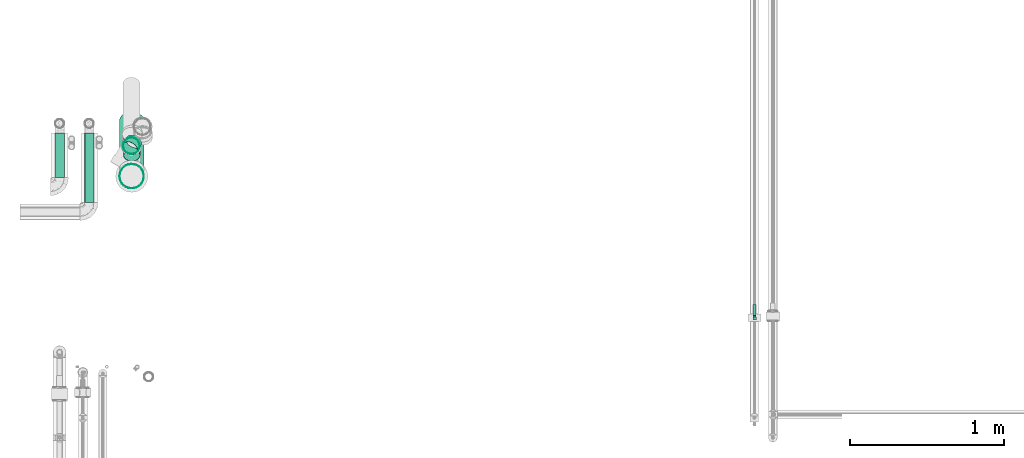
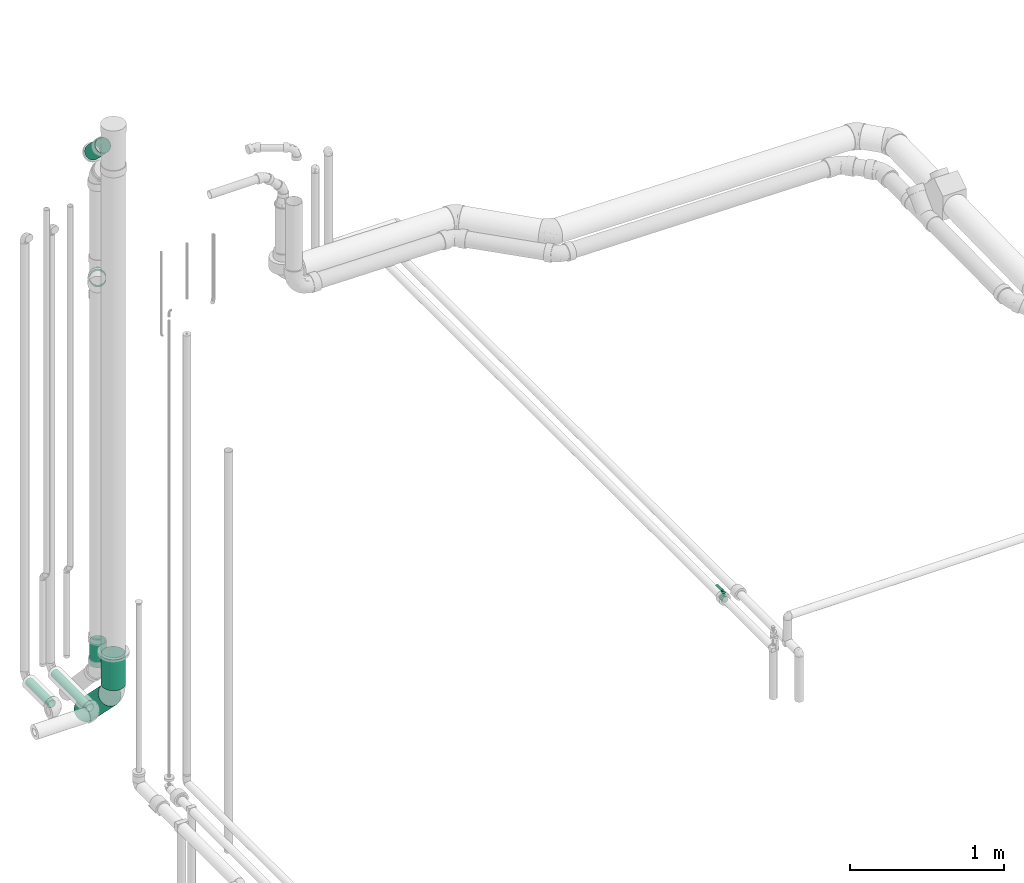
# One storey, part 26 of 78: 7 flow segments, 1 flow controller.
"""IFC2X3 building model written with IfcOpenShell, lengths in millimetres."""

from ifc_helpers import new_model, entity, si_unit, converted_unit, derived_unit, direction, frame, origin_with_axes, origin_2d_with_axis, place, context, subcontext, project, spatial, hollow_circle, extrude, open_shell, surface_model, source, transform, mapped, type_object, element, save


model = new_model("IFC2X3")

# Units and contexts
model_context = context("Model", 3, precision=0.01, world=frame((0.0, 4.29681676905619e-09, 0.0)), true_north=direction((4.01073788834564e-13, 1.0)))
plan_context = context("Plan", 3, precision=0.01, world=frame((0.0, 4.29681676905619e-09, 0.0)), true_north=direction((4.01073788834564e-13, 1.0)))
body_context = subcontext(model_context, "Body", "Model", "MODEL_VIEW")
ifc_project = project(units=[converted_unit("PLANEANGLEUNIT", "DEGREE", entity("IfcPositiveLengthMeasure", 0.0174532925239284), si_unit("PLANEANGLEUNIT", "RADIAN"), dimensions=[0, 0, 0, 0, 0, 0, 0]), si_unit("AREAUNIT", "SQUARE_METRE"), si_unit("LENGTHUNIT", "METRE", prefix="MILLI"), si_unit("MASSUNIT", "GRAM", prefix="KILO"), si_unit("POWERUNIT", "WATT"), si_unit("PRESSUREUNIT", "PASCAL"), si_unit("FORCEUNIT", "NEWTON", prefix="KILO"), si_unit("ELECTRICVOLTAGEUNIT", "VOLT"), si_unit("ELECTRICCURRENTUNIT", "AMPERE"), si_unit("THERMODYNAMICTEMPERATUREUNIT", "DEGREE_CELSIUS"), si_unit("TIMEUNIT", "SECOND"), si_unit("VOLUMEUNIT", "CUBIC_METRE"), derived_unit("LINEARVELOCITYUNIT", [(si_unit("LENGTHUNIT", "METRE"), 1), (si_unit("TIMEUNIT", "SECOND"), -1)]), derived_unit("VOLUMETRICFLOWRATEUNIT", [(si_unit("VOLUMEUNIT", "CUBIC_METRE"), 1), (si_unit("TIMEUNIT", "SECOND"), -1)]), derived_unit("THERMALTRANSMITTANCEUNIT", [(si_unit("POWERUNIT", "WATT"), 1), (si_unit("THERMODYNAMICTEMPERATUREUNIT", "KELVIN"), -1), (si_unit("AREAUNIT", "SQUARE_METRE"), -1)]), derived_unit("SOUNDPRESSUREUNIT", [(si_unit("PRESSUREUNIT", "PASCAL"), 1)])], contexts=[model_context, plan_context])

# Site, building, storey
site_placement = place(None, frame((0.0, -4.29681676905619e-09, 0.0), z_axis=(0.0, 0.0, 1.0), x_axis=(1.0, 0.0, 0.0)))
site = spatial("IfcSite", under=ifc_project, at=site_placement, Name="ENGM", CompositionType="ELEMENT")
building_placement = place(site_placement, frame((0.0, 4.29681676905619e-09, 0.0), z_axis=(0.0, 0.0, 1.0), x_axis=(1.0, 0.0, 0.0)))
building = spatial("IfcBuilding", under=site, at=building_placement, Name="TH", CompositionType="ELEMENT")
storey_placement = place(building_placement, frame((0.0, 0.0, 205200.0), z_axis=(0.0, 0.0, 1.0), x_axis=(1.0, 0.0, 0.0)))
storey = spatial("IfcBuildingStorey", under=building, at=storey_placement, Name="Nivå D + 1,2 m", CompositionType="ELEMENT", Elevation=205200.0)

# Flow controller
valve_type = type_object("IfcValveType", Name="AT3600-15", PredefinedType="NOTDEFINED")
shared_shape_1 = source(origin_with_axes(), body_context, "Body", "SurfaceModel", [
    surface_model("IfcShellBasedSurfaceModel", [(-14.8115, 10.0, 46.0), (-14.8115, -12.0, 46.0), (7.1885, -12.0, 46.0), (7.1885, 10.0, 46.0), (7.1885, 10.0, 44.0), (7.1885, -12.0, 44.0), (-14.8115, -12.0, 44.0), (-14.8115, 10.0, 44.0), (-13.0, -17.91792, -4.80109), (11.85, -17.91792, -4.80109), (-13.0, -18.55, 0.0), (-13.0, -16.06477, -9.275), (11.85, -16.06477, -9.275), (11.85, -9.275, -16.06477), (-13.0, -13.11683, -13.11683), (-13.0, -9.275, -16.06477), (11.85, -13.11683, -13.11683), (11.85, -4.80109, -17.91792), (-13.0, -4.80109, -17.91792), (11.85, -18.55, 0.0), (11.85, 0.0, -18.55), (-13.0, 0.0, -18.55), (11.85, 9.275, -16.06477), (-13.0, 9.275, -16.06477), (-13.0, 13.11683, -13.11683), (11.85, 16.06477, -9.275), (-13.0, 16.06477, -9.275), (-13.0, 17.91792, -4.80109), (11.85, 13.11683, -13.11683), (11.85, 17.91792, -4.80109), (-13.0, 18.55, 0.0), (11.85, 4.80109, -17.91792), (-13.0, 4.80109, -17.91792), (11.85, 18.55, 0.0), (-13.0, 17.91792, 4.80109), (11.85, 17.91792, 4.80109), (-13.0, 16.06477, 9.275), (11.85, 16.06477, 9.275), (11.85, 9.275, 16.06477), (-13.0, 13.11683, 13.11683), (-13.0, 9.275, 16.06477), (11.85, 13.11683, 13.11683), (11.85, 4.80109, 17.91792), (-13.0, 4.80109, 17.91792), (11.85, 0.0, 18.55), (-13.0, 0.0, 18.55), (11.85, -4.80109, 17.91792), (-13.0, -4.80109, 17.91792), (-13.0, -9.275, 16.06477), (-13.0, -13.11683, 13.11683), (11.85, -9.275, 16.06477), (11.85, -16.06477, 9.275), (-13.0, -16.06477, 9.275), (-13.0, -17.91792, 4.80109), (11.85, -13.11683, 13.11683), (11.85, -17.91792, 4.80109), (11.85, 5.76131, 21.50151), (11.85, -11.13, 19.27773), (11.85, 0.0, 22.26), (11.85, 19.27773, 11.13), (11.85, 11.13, 19.27773), (11.85, 15.7402, 15.7402), (11.85, -21.50151, 5.76131), (11.85, 22.26, 0.0), (11.85, -19.27773, 11.13), (11.85, -15.7402, 15.7402), (11.85, -5.76131, 21.50151), (11.85, -22.26, 0.0), (11.85, 21.50151, 5.76131), (11.85, 21.50151, -5.76131), (11.85, -21.50151, -5.76131), (11.85, 15.7402, -15.7402), (11.85, 19.27773, -11.13), (11.85, 11.13, -19.27773), (11.85, 5.76131, -21.50151), (11.85, 0.0, -22.26), (11.85, -15.7402, -15.7402), (11.85, -19.27773, -11.13), (11.85, -11.13, -19.27773), (11.85, -5.76131, -21.50151), (24.5, 15.7402, -15.7402), (24.5, 0.0, -22.26), (24.5, 5.76131, -21.50151), (24.5, 11.13, -19.27773), (24.5, 19.27773, -11.13), (24.5, 21.50151, -5.76131), (24.5, -11.13, -19.27773), (24.5, -21.50151, -5.76131), (24.5, -19.27773, -11.13), (24.5, -15.7402, -15.7402), (24.5, -5.76131, -21.50151), (24.5, -22.26, 0.0), (24.5, -21.50151, 5.76131), (24.5, 22.26, 0.0), (24.5, 21.50151, 5.76131), (24.5, 19.27773, 11.13), (24.5, -11.13, 19.27773), (24.5, 11.13, 19.27773), (24.5, 5.76131, 21.50151), (24.5, 15.7402, 15.7402), (24.5, -19.27773, 11.13), (24.5, -15.7402, 15.7402), (24.5, 0.0, 22.26), (24.5, -5.76131, 21.50151), (-13.0, 11.13, -19.27773), (-13.0, 11.13, 19.27773), (-13.0, 5.76131, -21.50151), (-13.0, 15.7402, -15.7402), (-13.0, 15.7402, 15.7402), (-13.0, 19.27773, 11.13), (-13.0, 19.27773, -11.13), (-13.0, 21.50151, -5.76131), (-13.0, 0.0, -22.26), (-13.0, 0.0, 22.26), (-13.0, -11.13, -19.27773), (-13.0, -5.76131, 21.50151), (-13.0, -15.7402, -15.7402), (-13.0, -5.76131, -21.50151), (-13.0, -19.27773, 11.13), (-13.0, -19.27773, -11.13), (-13.0, -21.50151, -5.76131), (-13.0, 22.26, 0.0), (-13.0, 21.50151, 5.76131), (-13.0, 5.76131, 21.50151), (-13.0, -21.50151, 5.76131), (-13.0, -22.26, 0.0), (-13.0, -11.13, 19.27773), (-13.0, -15.7402, 15.7402), (-24.5, 5.76131, -21.50151), (-24.5, 5.76131, 21.50151), (-24.5, 11.13, 19.27773), (-24.5, -5.76131, -21.50151), (-24.5, 0.0, 22.26), (-24.5, 19.27773, -11.13), (-24.5, 19.27773, 11.13), (-24.5, 21.50151, 5.76131), (-24.5, 15.7402, 15.7402), (-24.5, 15.7402, -15.7402), (-24.5, -11.13, 19.27773), (-24.5, -11.13, -19.27773), (-24.5, -15.7402, 15.7402), (-24.5, -5.76131, 21.50151), (-24.5, -19.27773, -11.13), (-24.5, -19.27773, 11.13), (-24.5, -21.50151, 5.76131), (-24.5, 21.50151, -5.76131), (-24.5, 22.26, 0.0), (-24.5, 11.13, -19.27773), (-24.5, 0.0, -22.26), (-24.5, -21.50151, -5.76131), (-24.5, -22.26, 0.0), (-24.5, -15.7402, -15.7402), (-7.16025, -7.53226, 44.0), (-2.8115, -8.6975, 44.0), (-0.56042, -8.40114, 44.0), (1.53725, -7.53226, 44.0), (4.72075, -4.34875, 44.0), (3.33856, -6.15006, 44.0), (-11.509, 0.0, 44.0), (5.58964, -2.25108, 44.0), (-10.34376, -4.34875, 44.0), (-8.96156, -6.15006, 44.0), (-5.06258, -8.40114, 44.0), (-11.21264, -2.25108, 44.0), (5.886, 0.0, 44.0), (-0.56042, 8.40114, 44.0), (5.58964, 2.25108, 44.0), (3.33856, 6.15006, 44.0), (4.72075, 4.34875, 44.0), (1.53725, 7.53226, 44.0), (-2.8115, 8.6975, 44.0), (-11.21264, 2.25108, 44.0), (-8.96156, 6.15006, 44.0), (-10.34376, 4.34875, 44.0), (-7.16025, 7.53226, 44.0), (-5.06258, 8.40114, 44.0), (1.53725, 7.53226, 0.0), (-2.8115, 8.6975, 0.0), (-0.56042, 8.40114, 0.0), (5.886, 0.0, 0.0), (3.33856, 6.15006, 0.0), (5.58964, 2.25108, 0.0), (4.72075, 4.34875, 0.0), (-11.21264, 2.25108, 0.0), (-5.06258, 8.40114, 0.0), (-7.16025, 7.53226, 0.0), (-8.96156, 6.15006, 0.0), (-10.34376, 4.34875, 0.0), (1.53725, -7.53226, 0.0), (4.72075, -4.34875, 0.0), (3.33856, -6.15006, 0.0), (-11.21264, -2.25108, 0.0), (-0.56042, -8.40114, 0.0), (-2.8115, -8.6975, 0.0), (-7.16025, -7.53226, 0.0), (-10.34376, -4.34875, 0.0), (-11.509, 0.0, 0.0), (-8.96156, -6.15006, 0.0), (-5.06258, -8.40114, 0.0), (5.58964, -2.25108, 0.0), (14.1885, -10.0, 51.0), (14.1885, -10.0, 53.0), (7.1885, -10.0, 46.0), (7.1885, -10.0, 44.0), (14.1885, 10.0, 51.0), (14.1885, 10.0, 53.0), (87.1885, -11.0, 53.0), (14.1885, -11.0, 53.0), (14.1885, -11.0, 51.0), (87.1885, -11.0, 51.0), (87.1885, 10.0, 51.0), (87.1885, 10.0, 53.0)], [open_shell([[[0, 1, 2]], [[2, 3, 0]], [[4, 5, 6]], [[6, 7, 4]], [[3, 2, 5]], [[5, 4, 3]], [[1, 0, 7]], [[7, 6, 1]], [[8, 9, 10]], [[11, 12, 8]], [[13, 14, 15]], [[11, 14, 16]], [[17, 15, 18]], [[8, 12, 9]], [[9, 19, 10]], [[17, 13, 15]], [[16, 14, 13]], [[16, 12, 11]], [[20, 17, 18]], [[18, 21, 20]], [[22, 23, 24]], [[25, 26, 27]], [[24, 26, 28]], [[29, 27, 30]], [[31, 32, 22]], [[31, 20, 32]], [[32, 23, 22]], [[24, 28, 22]], [[26, 25, 28]], [[29, 25, 27]], [[30, 33, 29]], [[32, 20, 21]], [[34, 35, 30]], [[36, 37, 34]], [[38, 39, 40]], [[36, 39, 41]], [[42, 40, 43]], [[34, 37, 35]], [[35, 33, 30]], [[38, 40, 42]], [[41, 39, 38]], [[41, 37, 36]], [[43, 44, 42]], [[43, 45, 44]], [[46, 47, 48]], [[49, 50, 48]], [[51, 52, 53]], [[49, 52, 54]], [[55, 53, 10]], [[47, 46, 45]], [[48, 50, 46]], [[45, 46, 44]], [[49, 54, 50]], [[52, 51, 54]], [[55, 51, 53]], [[10, 19, 55]], [[56, 57, 58]], [[59, 56, 60]], [[56, 59, 57]], [[59, 60, 61]], [[62, 59, 63]], [[57, 64, 65]], [[57, 66, 58]], [[57, 62, 64]], [[57, 59, 62]], [[63, 67, 62]], [[59, 68, 63]], [[69, 70, 63]], [[71, 69, 72]], [[71, 73, 74]], [[70, 69, 71]], [[75, 71, 74]], [[70, 76, 77]], [[76, 70, 78]], [[78, 75, 79]], [[78, 70, 71]], [[71, 75, 78]], [[63, 70, 67]], [[80, 81, 82]], [[80, 82, 83]], [[80, 84, 85]], [[81, 80, 86]], [[87, 80, 85]], [[86, 88, 89]], [[86, 90, 81]], [[86, 87, 88]], [[80, 87, 86]], [[85, 91, 87]], [[85, 92, 91]], [[93, 94, 95]], [[96, 93, 95]], [[97, 98, 95]], [[97, 95, 99]], [[96, 95, 98]], [[100, 96, 101]], [[96, 100, 92]], [[96, 102, 103]], [[92, 85, 96]], [[98, 102, 96]], [[96, 85, 93]], [[68, 94, 63]], [[59, 95, 68]], [[97, 61, 60]], [[59, 61, 99]], [[98, 60, 56]], [[68, 95, 94]], [[94, 93, 63]], [[98, 97, 60]], [[99, 61, 97]], [[99, 95, 59]], [[102, 98, 56]], [[56, 58, 102]], [[66, 103, 58]], [[57, 96, 66]], [[100, 65, 64]], [[57, 65, 101]], [[92, 64, 62]], [[57, 101, 96]], [[96, 103, 66]], [[91, 92, 62]], [[100, 64, 92]], [[100, 101, 65]], [[67, 91, 62]], [[58, 103, 102]], [[70, 87, 67]], [[77, 88, 70]], [[86, 76, 78]], [[77, 76, 89]], [[90, 78, 79]], [[70, 88, 87]], [[87, 91, 67]], [[90, 86, 78]], [[89, 76, 86]], [[89, 88, 77]], [[81, 90, 79]], [[79, 75, 81]], [[74, 82, 75]], [[73, 83, 74]], [[84, 71, 72]], [[73, 71, 80]], [[85, 72, 69]], [[73, 80, 83]], [[83, 82, 74]], [[93, 85, 69]], [[84, 72, 85]], [[84, 80, 71]], [[63, 93, 69]], [[75, 82, 81]], [[104, 105, 106]], [[107, 108, 104]], [[109, 110, 111]], [[110, 108, 107]], [[112, 106, 113]], [[114, 115, 116]], [[113, 117, 112]], [[116, 118, 119]], [[117, 115, 114]], [[118, 120, 119]], [[121, 122, 111]], [[109, 108, 110]], [[105, 104, 108]], [[113, 106, 123]], [[106, 105, 123]], [[115, 117, 113]], [[118, 124, 120]], [[125, 120, 124]], [[116, 126, 127]], [[118, 116, 127]], [[115, 126, 116]], [[111, 122, 109]], [[128, 129, 130]], [[131, 132, 129]], [[133, 134, 135]], [[134, 133, 136]], [[137, 130, 136]], [[138, 139, 140]], [[141, 139, 138]], [[140, 142, 143]], [[144, 143, 142]], [[141, 132, 139]], [[145, 135, 146]], [[137, 136, 133]], [[130, 137, 147]], [[129, 128, 148]], [[130, 147, 128]], [[129, 148, 131]], [[142, 149, 144]], [[150, 144, 149]], [[140, 139, 151]], [[151, 142, 140]], [[131, 139, 132]], [[135, 145, 133]], [[149, 120, 150]], [[142, 119, 149]], [[114, 151, 139]], [[142, 151, 116]], [[117, 139, 131]], [[149, 119, 120]], [[120, 125, 150]], [[117, 114, 139]], [[116, 151, 114]], [[116, 119, 142]], [[112, 117, 131]], [[131, 148, 112]], [[128, 106, 148]], [[147, 104, 128]], [[110, 137, 133]], [[147, 137, 107]], [[111, 133, 145]], [[147, 107, 104]], [[104, 106, 128]], [[121, 111, 145]], [[110, 133, 111]], [[110, 107, 137]], [[146, 121, 145]], [[148, 106, 112]], [[135, 122, 146]], [[134, 109, 135]], [[105, 136, 130]], [[134, 136, 108]], [[123, 130, 129]], [[135, 109, 122]], [[122, 121, 146]], [[123, 105, 130]], [[108, 136, 105]], [[108, 109, 134]], [[113, 123, 129]], [[129, 132, 113]], [[141, 115, 132]], [[138, 126, 141]], [[118, 140, 143]], [[138, 140, 127]], [[124, 143, 144]], [[138, 127, 126]], [[126, 115, 141]], [[125, 124, 144]], [[118, 143, 124]], [[118, 127, 140]], [[150, 125, 144]], [[132, 115, 113]], [[25, 31, 22]], [[25, 22, 28]], [[29, 33, 31]], [[29, 31, 25]], [[9, 31, 19]], [[20, 13, 17]], [[20, 31, 13]], [[16, 9, 12]], [[9, 16, 13]], [[31, 9, 13]], [[31, 33, 19]], [[38, 35, 37]], [[38, 37, 41]], [[38, 42, 44]], [[38, 44, 35]], [[35, 44, 54]], [[55, 54, 51]], [[54, 55, 19]], [[54, 46, 50]], [[54, 19, 35]], [[44, 46, 54]], [[35, 19, 33]], [[45, 43, 40]], [[45, 40, 39]], [[36, 34, 45]], [[36, 45, 39]], [[45, 34, 49]], [[47, 49, 48]], [[47, 45, 49]], [[49, 53, 52]], [[53, 49, 10]], [[34, 10, 49]], [[34, 27, 10]], [[8, 10, 27]], [[24, 27, 26]], [[23, 32, 27]], [[23, 27, 24]], [[8, 27, 32]], [[8, 14, 11]], [[14, 8, 15]], [[15, 21, 18]], [[15, 8, 32]], [[32, 21, 15]], [[27, 34, 30]], [[152, 153, 154]], [[155, 152, 154]], [[152, 155, 156]], [[156, 155, 157]], [[158, 156, 159]], [[152, 160, 161]], [[152, 162, 153]], [[160, 158, 163]], [[158, 160, 152]], [[156, 158, 152]], [[159, 164, 158]], [[165, 164, 166]], [[167, 166, 168]], [[167, 169, 165]], [[167, 165, 166]], [[164, 165, 170]], [[171, 172, 173]], [[172, 171, 174]], [[171, 175, 174]], [[171, 164, 175]], [[164, 170, 175]], [[164, 171, 158]], [[176, 177, 178]], [[179, 176, 180]], [[181, 179, 180]], [[181, 180, 182]], [[183, 176, 179]], [[184, 183, 185]], [[183, 184, 177]], [[186, 183, 187]], [[183, 186, 185]], [[177, 176, 183]], [[179, 188, 183]], [[189, 188, 179]], [[188, 189, 190]], [[191, 188, 192]], [[183, 188, 191]], [[193, 194, 192]], [[191, 194, 195]], [[196, 183, 191]], [[195, 194, 197]], [[191, 192, 194]], [[198, 194, 193]], [[189, 179, 199]], [[191, 163, 196]], [[195, 160, 191]], [[152, 197, 194]], [[195, 197, 161]], [[162, 194, 198]], [[191, 160, 163]], [[163, 158, 196]], [[162, 152, 194]], [[161, 197, 152]], [[161, 160, 195]], [[153, 162, 198]], [[198, 193, 153]], [[192, 154, 193]], [[188, 155, 192]], [[156, 190, 189]], [[188, 190, 157]], [[159, 189, 199]], [[188, 157, 155]], [[155, 154, 192]], [[164, 159, 199]], [[156, 189, 159]], [[156, 157, 190]], [[179, 164, 199]], [[193, 154, 153]], [[181, 166, 179]], [[182, 168, 181]], [[169, 180, 176]], [[182, 180, 167]], [[165, 176, 178]], [[181, 168, 166]], [[166, 164, 179]], [[165, 169, 176]], [[167, 180, 169]], [[167, 168, 182]], [[170, 165, 178]], [[178, 177, 170]], [[184, 175, 177]], [[185, 174, 184]], [[173, 186, 187]], [[185, 186, 172]], [[171, 187, 183]], [[185, 172, 174]], [[174, 175, 184]], [[158, 171, 183]], [[173, 187, 171]], [[173, 172, 186]], [[196, 158, 183]], [[177, 175, 170]], [[2, 1, 5]], [[6, 5, 1]], [[0, 3, 7]], [[4, 7, 3]], [[200, 201, 202]], [[202, 203, 200]], [[4, 3, 204]], [[205, 204, 3]], [[205, 3, 201]], [[202, 201, 3]], [[204, 205, 200]], [[201, 200, 205]], [[4, 204, 203]], [[200, 203, 204]], [[3, 4, 202]], [[203, 202, 4]], [[206, 207, 208]], [[208, 209, 206]], [[210, 204, 205]], [[205, 211, 210]], [[205, 204, 207]], [[208, 207, 204]], [[211, 205, 207]], [[207, 206, 211]], [[210, 211, 209]], [[206, 209, 211]], [[204, 210, 209]], [[209, 208, 204]]])]),
])
flow_controller_placement = place(storey_placement, frame((899890.50163, 478903.93178, 4212.79203000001), z_axis=(0.0, 0.0, 1.0), x_axis=(0.0, 1.0, 0.0)))
element("IfcFlowController", 1, at=flow_controller_placement, inside=storey, type_object=valve_type, Name="AT3600-15", context=body_context, shape_type="MappedRepresentation", body=[
    mapped(shared_shape_1, transform((0.0, 0.0, 0.0), scale=1.0)),
])

# Flow segments
pipe_segment_type_1 = type_object("IfcPipeSegmentType", Name="MA", PredefinedType="RIGIDSEGMENT")
shared_shape_2 = source(origin_with_axes(), body_context, "Body", "SweptSolid", [
    extrude(hollow_circle(Radius=55.0, WallThickness=2.0, at=origin_2d_with_axis()), frame((0.0, 0.0, 0.0), z_axis=(1.0, 0.0, 0.0), x_axis=(0.0, 1.0, 0.0)), (0.0, 0.0, 1.0), 73.1),
])
flow_segment_1_placement = place(storey_placement, frame((895851.97844, 480051.38099, 7465.18304999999), z_axis=(0.353553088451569, 0.612372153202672, 0.707107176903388), x_axis=(-0.353553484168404, -0.612372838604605, 0.707106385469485)))
element("IfcFlowSegment", 2, at=flow_segment_1_placement, inside=storey, type_object=pipe_segment_type_1, Name="MA", context=body_context, shape_type="MappedRepresentation", body=[
    mapped(shared_shape_2, transform((0.0, 0.0, 0.0), scale=1.0)),
])
pipe_segment_type_2 = type_object("IfcPipeSegmentType", Name="SSt", PredefinedType="RIGIDSEGMENT")
shared_shape_3 = source(origin_with_axes(), body_context, "Body", "SweptSolid", [
    extrude(hollow_circle(Radius=80.0, WallThickness=2.0, at=origin_2d_with_axis()), frame((0.0, 0.0, 0.0), z_axis=(1.0, 0.0, 0.0), x_axis=(0.0, 1.0, 0.0)), (0.0, 0.0, 1.0), 242.7),
])
flow_segment_2_placement = place(storey_placement, frame((895838.87476, 479825.59402, 4633.17916999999), z_axis=(3.30872245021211e-24, 0.9999999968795, 7.89999997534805e-05), x_axis=(-0.000100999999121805, 7.8999999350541e-05, -0.999999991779)))
element("IfcFlowSegment", 3, at=flow_segment_2_placement, inside=storey, type_object=pipe_segment_type_2, Name="SSt", context=body_context, shape_type="MappedRepresentation", body=[
    mapped(shared_shape_3, transform((0.0, 0.0, 0.0), scale=1.0)),
])
shared_shape_4 = source(origin_with_axes(), body_context, "Body", "SweptSolid", [
    extrude(hollow_circle(Radius=55.0, WallThickness=2.0, at=origin_2d_with_axis()), frame((0.0, 0.0, 0.0), z_axis=(1.0, 0.0, 0.0), x_axis=(0.0, 1.0, 0.0)), (0.0, 0.0, 1.0), 192.7),
])
flow_segment_3_placement = place(storey_placement, frame((895839.4078, 479961.83334, 8586.30564000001), z_axis=(0.0, 0.707106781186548, 0.707106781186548), x_axis=(0.0, 0.707106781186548, -0.707106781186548)))
element("IfcFlowSegment", 4, at=flow_segment_3_placement, inside=storey, type_object=pipe_segment_type_1, Name="MA", context=body_context, shape_type="MappedRepresentation", body=[
    mapped(shared_shape_4, transform((0.0, 0.0, 0.0), scale=1.0)),
])
pipe_segment_type_3 = type_object("IfcPipeSegmentType", Name="Stålrør normaltykke", PredefinedType="RIGIDSEGMENT")
shared_shape_5 = source(origin_with_axes(), body_context, "Body", "SweptSolid", [
    extrude(hollow_circle(Radius=30.1, WallThickness=2.0, at=origin_2d_with_axis()), frame((0.0, 0.0, 0.0), z_axis=(1.0, 0.0, 0.0), x_axis=(0.0, 1.0, 0.0)), (0.0, 0.0, 1.0), 291.4),
])
flow_segment_4_placement = place(storey_placement, frame((895369.84063, 480107.50014, 4400.0), z_axis=(0.0, 0.0, 1.0), x_axis=(0.0, -1.0, 0.0)))
element("IfcFlowSegment", 5, at=flow_segment_4_placement, inside=storey, type_object=pipe_segment_type_3, Name="Stålrør normaltykke", context=body_context, shape_type="MappedRepresentation", body=[
    mapped(shared_shape_5, transform((0.0, 0.0, 0.0), scale=1.0)),
])
shared_shape_6 = source(origin_with_axes(), body_context, "Body", "SweptSolid", [
    extrude(hollow_circle(Radius=30.1, WallThickness=2.0, at=origin_2d_with_axis()), frame((0.0, 0.0, 0.0), z_axis=(1.0, 0.0, 0.0), x_axis=(0.0, 1.0, 0.0)), (0.0, 0.0, 1.0), 452.8),
])
flow_segment_5_placement = place(storey_placement, frame((895562.81931, 480107.50014, 4400.0), z_axis=(0.0, 0.0, 1.0), x_axis=(0.0, -1.0, 0.0)))
element("IfcFlowSegment", 6, at=flow_segment_5_placement, inside=storey, type_object=pipe_segment_type_3, Name="Stålrør normaltykke", context=body_context, shape_type="MappedRepresentation", body=[
    mapped(shared_shape_6, transform((0.0, 0.0, 0.0), scale=1.0)),
])
shared_shape_7 = source(origin_with_axes(), body_context, "Body", "SweptSolid", [
    extrude(hollow_circle(Radius=55.0, WallThickness=2.0, at=origin_2d_with_axis()), frame((0.0, 0.0, 0.0), z_axis=(1.0, 0.0, 0.0), x_axis=(0.0, 1.0, 0.0)), (0.0, 0.0, 1.0), 182.2),
])
flow_segment_6_placement = place(storey_placement, frame((895837.03993, 480023.27263, 4435.38805000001), z_axis=(0.0, 1.0, 0.0), x_axis=(0.0, 0.0, 1.0)))
element("IfcFlowSegment", 7, at=flow_segment_6_placement, inside=storey, type_object=pipe_segment_type_1, Name="MA", context=body_context, shape_type="MappedRepresentation", body=[
    mapped(shared_shape_7, transform((0.0, 0.0, 0.0), scale=1.0)),
])
shared_shape_8 = source(origin_with_axes(), body_context, "Body", "SweptSolid", [
    extrude(hollow_circle(Radius=80.0, WallThickness=2.0, at=origin_2d_with_axis()), frame((0.0, 0.0, 0.0), z_axis=(1.0, 0.0, 0.0), x_axis=(0.0, 1.0, 0.0)), (0.0, 0.0, 1.0), 445.3),
])
flow_segment_7_placement = place(storey_placement, frame((895838.84516, 480187.36229, 3962.51775999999), z_axis=(0.999930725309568, -0.00832299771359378, -0.00832299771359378), x_axis=(0.0, -0.707106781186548, 0.707106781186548)))
element("IfcFlowSegment", 8, at=flow_segment_7_placement, inside=storey, type_object=pipe_segment_type_2, Name="SSt", context=body_context, shape_type="MappedRepresentation", body=[
    mapped(shared_shape_8, transform((0.0, 0.0, 0.0), scale=1.0)),
])

save(model, "model.ifc")
